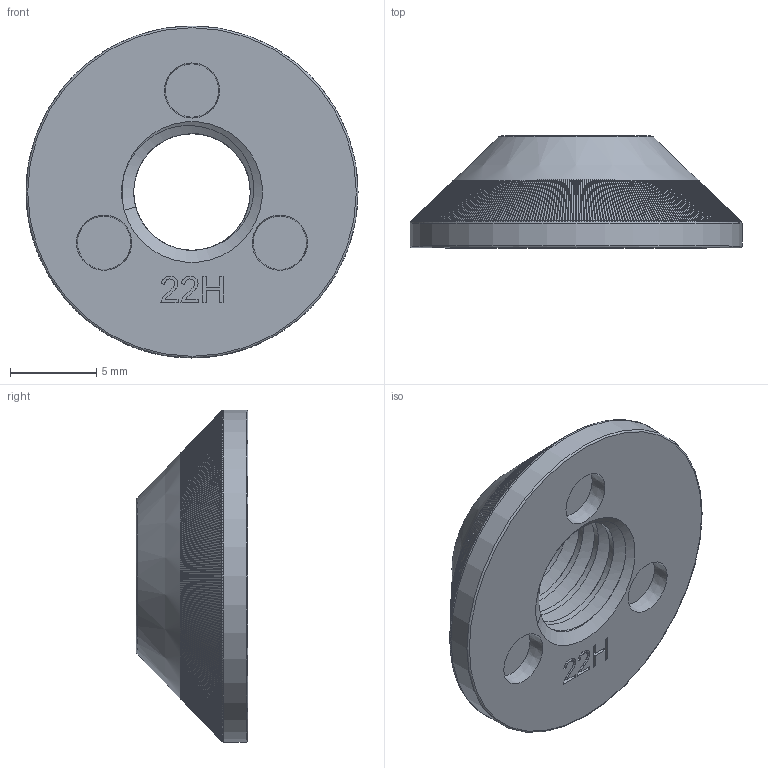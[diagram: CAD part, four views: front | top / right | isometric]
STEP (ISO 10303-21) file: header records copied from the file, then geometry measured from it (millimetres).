
FILE_DESCRIPTION(/* description */ (''),/* implementation_level */ '2;1');
FILE_NAME(/* name */ 'HEWI_CONU_M8L_PreFinal_1.step',/* time_stamp */ '2024-01-24T06:56:25+01:00',/* author */ (''),/* organization */ (''),/* preprocessor_version */ 'ST-DEVELOPER v20',/* originating_system */ 'Autodesk Translation Framework v12.14.0.127',/* authorisation */ '');
FILE_SCHEMA (('AUTOMOTIVE_DESIGN { 1 0 10303 214 3 1 1 }'));
Length unit declared in the file: millimetre
Products named in the file (1): HEWI_CONU_M8L
Bounding box: 19.3 x 6.5 x 19.3 mm (x, y, z)
Volume: 951.2 mm3; surface area: 974 mm2
Topology: 1 solids, 1 shells, 1936 faces, 6515 edges, 3848 vertices
Faces by surface type: bspline 1516, cylinder 383, plane 28, cone 6, torus 3
Full cylindrical faces by diameter (mm): 6.779 x2, 8.17 x1, 19.3 x1
Entity records: 142560 total; most frequent: CARTESIAN_POINT 102935, ORIENTED_EDGE 11552, EDGE_CURVE 5776, DIRECTION 4691, VERTEX_POINT 3848, B_SPLINE_CURVE_WITH_KNOTS 3058, AXIS2_PLACEMENT_3D 2290, EDGE_LOOP 1944
